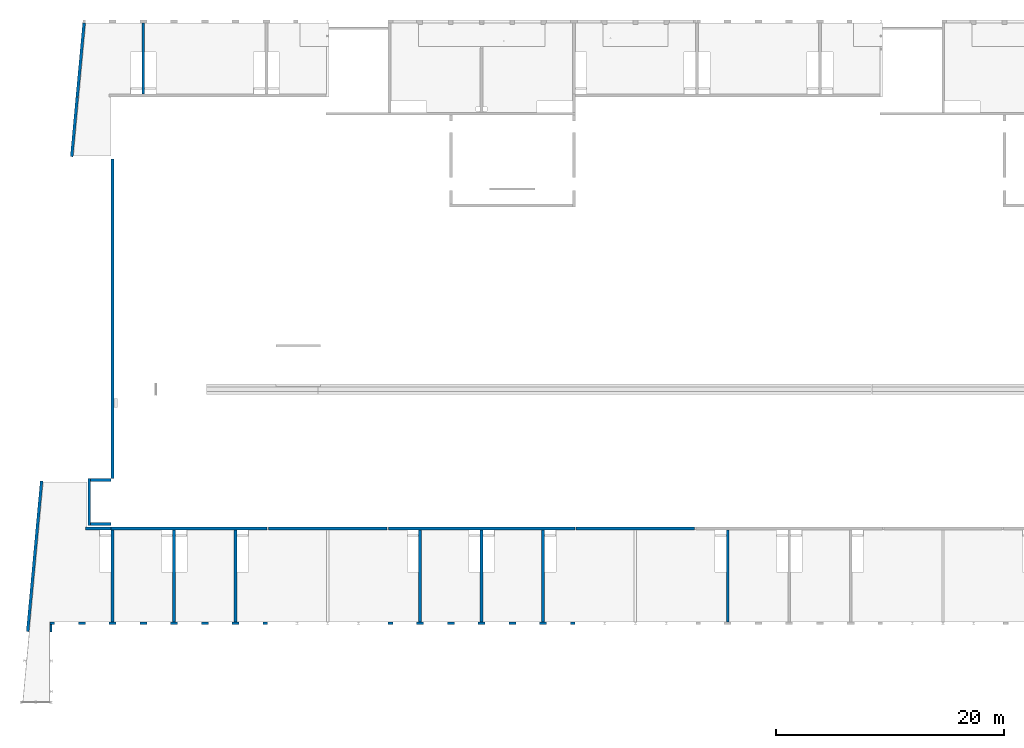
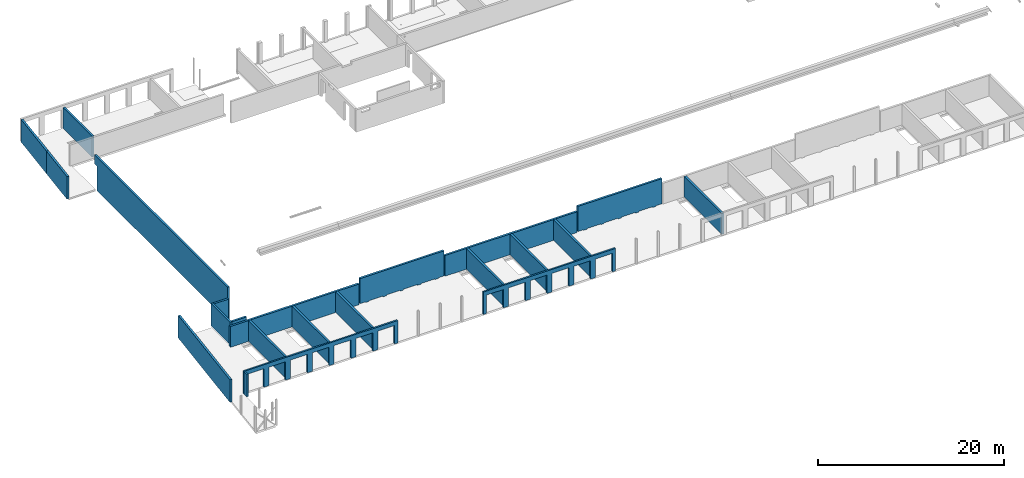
# One storey, part 14 of 22: 23 walls, 27 openings.
"""IFC2X3 building model written with IfcOpenShell, lengths in millimetres."""

from ifc_helpers import new_model, entity, si_unit, converted_unit, derived_unit, direction, frame, frame_2d, origin, origin_2d_with_axis, place, context, subcontext, project, spatial, polyline, rectangle, outline, extrude, clip, bounded_halfspace, faceted_brep, material, layer, layer_set, layer_usage, type_object, element, save


model = new_model("IFC2X3")

# Units and contexts
model_context = context("Model", 3, precision=0.01, world=origin(), true_north=direction((6.12303176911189e-17, 1.0)))
body_context = subcontext(model_context, "Body", "Model", "MODEL_VIEW")
ifc_project = project(units=[si_unit("LENGTHUNIT", "METRE", prefix="MILLI"), si_unit("AREAUNIT", "SQUARE_METRE"), si_unit("VOLUMEUNIT", "CUBIC_METRE"), converted_unit("PLANEANGLEUNIT", "DEGREE", entity("IfcRatioMeasure", 0.0174532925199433), si_unit("PLANEANGLEUNIT", "RADIAN"), dimensions=[0, 0, 0, 0, 0, 0, 0]), si_unit("MASSUNIT", "GRAM", prefix="KILO"), derived_unit("MASSDENSITYUNIT", [(si_unit("MASSUNIT", "GRAM", prefix="KILO"), 1), (si_unit("LENGTHUNIT", "METRE"), -3)]), si_unit("TIMEUNIT", "SECOND"), si_unit("FREQUENCYUNIT", "HERTZ"), si_unit("THERMODYNAMICTEMPERATUREUNIT", "DEGREE_CELSIUS"), derived_unit("THERMALTRANSMITTANCEUNIT", [(si_unit("MASSUNIT", "GRAM", prefix="KILO"), 1), (si_unit("THERMODYNAMICTEMPERATUREUNIT", "KELVIN"), -1), (si_unit("TIMEUNIT", "SECOND"), -3)]), derived_unit("VOLUMETRICFLOWRATEUNIT", [(si_unit("LENGTHUNIT", "METRE"), 3), (si_unit("TIMEUNIT", "SECOND"), -1)]), si_unit("ELECTRICCURRENTUNIT", "AMPERE"), si_unit("ELECTRICVOLTAGEUNIT", "VOLT"), si_unit("POWERUNIT", "WATT"), si_unit("FORCEUNIT", "NEWTON", prefix="KILO"), si_unit("ILLUMINANCEUNIT", "LUX"), si_unit("LUMINOUSFLUXUNIT", "LUMEN"), si_unit("LUMINOUSINTENSITYUNIT", "CANDELA"), derived_unit("USERDEFINED", [(si_unit("MASSUNIT", "GRAM", prefix="KILO"), -1), (si_unit("LENGTHUNIT", "METRE"), -2), (si_unit("TIMEUNIT", "SECOND"), 3), (si_unit("LUMINOUSFLUXUNIT", "LUMEN"), 1)]), derived_unit("LINEARVELOCITYUNIT", [(si_unit("LENGTHUNIT", "METRE"), 1), (si_unit("TIMEUNIT", "SECOND"), -1)]), si_unit("PRESSUREUNIT", "PASCAL"), derived_unit("USERDEFINED", [(si_unit("LENGTHUNIT", "METRE"), -2), (si_unit("MASSUNIT", "GRAM", prefix="KILO"), 1), (si_unit("TIMEUNIT", "SECOND"), -2)])], contexts=[model_context])

# Site, building, storey
site_placement = place(None, origin())
site = spatial("IfcSite", under=ifc_project, at=site_placement, Name="Default", CompositionType="ELEMENT")
building_placement = place(site_placement, origin())
building = spatial("IfcBuilding", under=site, at=building_placement, Name="niet gebruiken", CompositionType="ELEMENT")
storey_placement = place(building_placement, frame((0.0, 0.0, 9630.0)))
storey = spatial("IfcBuildingStorey", under=building, at=storey_placement, Name="03 derde verdieping", CompositionType="ELEMENT", Elevation=9630.00000000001)

# Walls
ifc_material_1 = material(Name="NLRS_f2_beton ihwg")
ifc_layer_1 = layer(ifc_material_1, 250.0)
ifc_layer_set_1 = layer_set([ifc_layer_1], Name="Basic Wall:NLRS_22.21_WA_beton ihwg d=250_gen")
ifc_layer_usage_1 = layer_usage(ifc_layer_set_1, "AXIS2", "NEGATIVE", 125.0)
wall_type_1 = type_object("IfcWallType", Name="Basic Wall:NLRS_22.21_WA_beton ihwg d=250_gen", PredefinedType="STANDARD", material=ifc_layer_set_1)
wall_1_placement = place(storey_placement, frame((8100.0, 8496.0, -90.0), z_axis=(0.0, 0.0, 1.0), x_axis=(0.0, -1.0, 0.0)))
element("IfcWallStandardCase", 1, at=wall_1_placement, inside=storey, type_object=wall_type_1, material=ifc_layer_usage_1, Name="Basic Wall:NLRS_22.21_WA_beton ihwg d=250_gen", ObjectType="Basic Wall:NLRS_22.21_WA_beton ihwg d=250_gen", context=body_context, shape_type="SweptSolid", body=[
    extrude(rectangle(XDim=8075.99999999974, YDim=249.999999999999, at=frame_2d((4037.99999999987, 0.0), x_axis=(-1.0, 0.0))), origin(), (0.0, 0.0, 1.0), 2720.0),
])
ifc_layer_usage_2 = layer_usage(ifc_layer_set_1, "AXIS2", "NEGATIVE", 125.0)
wall_2_placement = place(storey_placement, frame((13500.0, 8496.0, -90.0), z_axis=(0.0, 0.0, 1.0), x_axis=(0.0, -1.0, 0.0)))
element("IfcWallStandardCase", 2, at=wall_2_placement, inside=storey, type_object=wall_type_1, material=ifc_layer_usage_2, Name="Basic Wall:NLRS_22.21_WA_beton ihwg d=250_gen", ObjectType="Basic Wall:NLRS_22.21_WA_beton ihwg d=250_gen", context=body_context, shape_type="SweptSolid", body=[
    extrude(rectangle(XDim=8075.99999999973, YDim=249.999999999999, at=frame_2d((4037.99999999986, 0.0), x_axis=(-1.0, 0.0))), origin(), (0.0, 0.0, 1.0), 2720.0),
])
ifc_layer_usage_3 = layer_usage(ifc_layer_set_1, "AXIS2", "NEGATIVE", 125.0)
wall_3_placement = place(storey_placement, frame((18900.0, 8496.0, -90.0), z_axis=(0.0, 0.0, 1.0), x_axis=(0.0, -1.0, 0.0)))
element("IfcWallStandardCase", 3, at=wall_3_placement, inside=storey, type_object=wall_type_1, material=ifc_layer_usage_3, Name="Basic Wall:NLRS_22.21_WA_beton ihwg d=250_gen", ObjectType="Basic Wall:NLRS_22.21_WA_beton ihwg d=250_gen", context=body_context, shape_type="SweptSolid", body=[
    extrude(rectangle(XDim=8075.99999999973, YDim=249.999999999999, at=frame_2d((4037.99999999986, 0.0), x_axis=(-1.0, 0.0))), origin(), (0.0, 0.0, 1.0), 2720.0),
])
ifc_layer_usage_4 = layer_usage(ifc_layer_set_1, "AXIS2", "NEGATIVE", 125.0)
wall_4_placement = place(storey_placement, frame((35100.0, 8496.0, -90.0), z_axis=(0.0, 0.0, 1.0), x_axis=(0.0, -1.0, 0.0)))
element("IfcWallStandardCase", 4, at=wall_4_placement, inside=storey, type_object=wall_type_1, material=ifc_layer_usage_4, Name="Basic Wall:NLRS_22.21_WA_beton ihwg d=250_gen", ObjectType="Basic Wall:NLRS_22.21_WA_beton ihwg d=250_gen", context=body_context, shape_type="SweptSolid", body=[
    extrude(rectangle(XDim=8075.99999999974, YDim=250.000000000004, at=frame_2d((4037.99999999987, 0.0), x_axis=(-1.0, 0.0))), origin(), (0.0, 0.0, 1.0), 2719.99999999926),
])
ifc_layer_usage_5 = layer_usage(ifc_layer_set_1, "AXIS2", "NEGATIVE", 125.0)
wall_5_placement = place(storey_placement, frame((40500.0, 8496.0, -90.0), z_axis=(0.0, 0.0, 1.0), x_axis=(0.0, -1.0, 0.0)))
element("IfcWallStandardCase", 5, at=wall_5_placement, inside=storey, type_object=wall_type_1, material=ifc_layer_usage_5, Name="Basic Wall:NLRS_22.21_WA_beton ihwg d=250_gen", ObjectType="Basic Wall:NLRS_22.21_WA_beton ihwg d=250_gen", context=body_context, shape_type="SweptSolid", body=[
    extrude(rectangle(XDim=8075.99999999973, YDim=249.999999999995, at=frame_2d((4037.99999999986, 0.0), x_axis=(-1.0, 0.0))), origin(), (0.0, 0.0, 1.0), 2720.0),
])
ifc_layer_usage_6 = layer_usage(ifc_layer_set_1, "AXIS2", "NEGATIVE", 125.0)
wall_6_placement = place(storey_placement, frame((45900.0, 8496.0, -90.0), z_axis=(0.0, 0.0, 1.0), x_axis=(0.0, -1.0, 0.0)))
element("IfcWallStandardCase", 6, at=wall_6_placement, inside=storey, type_object=wall_type_1, material=ifc_layer_usage_6, Name="Basic Wall:NLRS_22.21_WA_beton ihwg d=250_gen", ObjectType="Basic Wall:NLRS_22.21_WA_beton ihwg d=250_gen", context=body_context, shape_type="SweptSolid", body=[
    extrude(rectangle(XDim=8075.99999999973, YDim=249.999999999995, at=frame_2d((4037.99999999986, 0.0), x_axis=(-1.0, 0.0))), origin(), (0.0, 0.0, 1.0), 2720.0),
])
ifc_layer_usage_7 = layer_usage(ifc_layer_set_1, "AXIS2", "NEGATIVE", 125.0)
wall_7_placement = place(storey_placement, frame((62100.0, 8496.0, -90.0), z_axis=(0.0, 0.0, 1.0), x_axis=(0.0, -1.0, 0.0)))
element("IfcWallStandardCase", 7, at=wall_7_placement, inside=storey, type_object=wall_type_1, material=ifc_layer_usage_7, Name="Basic Wall:NLRS_22.21_WA_beton ihwg d=250_gen", ObjectType="Basic Wall:NLRS_22.21_WA_beton ihwg d=250_gen", context=body_context, shape_type="SweptSolid", body=[
    extrude(rectangle(XDim=8075.99999999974, YDim=249.999999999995, at=frame_2d((4037.99999999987, 0.0), x_axis=(-1.0, 0.0))), origin(), (0.0, 0.0, 1.0), 2720.0),
])
ifc_layer_usage_8 = layer_usage(ifc_layer_set_1, "AXIS2", "NEGATIVE", 125.0)
wall_8_placement = place(storey_placement, frame((5735.0, 8621.0, -90.0)))
element("IfcWallStandardCase", 8, at=wall_8_placement, inside=storey, type_object=wall_type_1, material=ifc_layer_usage_8, Name="Basic Wall:NLRS_22.21_WA_beton ihwg d=250_gen", ObjectType="Basic Wall:NLRS_22.21_WA_beton ihwg d=250_gen", context=body_context, shape_type="SweptSolid", body=[
    extrude(rectangle(XDim=2240.00000000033, YDim=249.999999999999, at=frame_2d((1120.00000000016, 0.0), x_axis=(-1.0, 0.0))), origin(), (0.0, 0.0, 1.0), 2720.0),
])
ifc_layer_usage_9 = layer_usage(ifc_layer_set_1, "AXIS2", "NEGATIVE", 125.0)
wall_9_placement = place(storey_placement, frame((10800.0, 46746.0, -90.0), z_axis=(0.0, 0.0, 1.0), x_axis=(0.0, 1.0, 0.0)))
element("IfcWallStandardCase", 9, at=wall_9_placement, inside=storey, type_object=wall_type_1, material=ifc_layer_usage_9, Name="Basic Wall:NLRS_22.21_WA_beton ihwg d=250_gen", ObjectType="Basic Wall:NLRS_22.21_WA_beton ihwg d=250_gen", context=body_context, shape_type="SweptSolid", body=[
    extrude(rectangle(XDim=6239.99999999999, YDim=249.999999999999, at=frame_2d((3120.0, -2.1316282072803e-14), x_axis=(-1.0, 0.0))), origin(), (0.0, 0.0, 1.0), 2720.0),
])
ifc_layer_usage_10 = layer_usage(ifc_layer_set_1, "AXIS2", "NEGATIVE", 125.0)
wall_10_placement = place(storey_placement, frame((7975.0, 8621.0, -90.0)))
element("IfcWallStandardCase", 10, at=wall_10_placement, inside=storey, type_object=wall_type_1, material=ifc_layer_usage_10, Name="Basic Wall:NLRS_22.21_WA_beton ihwg d=250_gen", ObjectType="Basic Wall:NLRS_22.21_WA_beton ihwg d=250_gen", context=body_context, shape_type="Clipping", body=[
    clip(extrude(rectangle(XDim=13704.9999999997, YDim=249.999999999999, at=frame_2d((6852.49999999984, 3.41060513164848e-13), x_axis=(-1.0, 0.0))), origin(), (0.0, 0.0, 1.0), 2719.99999999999), bounded_halfspace(frame((6620.0, -125.0, 2720.0), z_axis=(0.0, 0.0, -1.0), x_axis=(0.0922987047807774, 0.995731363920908, 0.0)), True, frame((6620.0, -125.0, 2720.0), z_axis=(0.0, 0.0, -1.0), x_axis=(0.0922987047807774, 0.995731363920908, 0.0)), polyline([(0.0, 0.0), (-89.5297436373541, -965.85942300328), (-112.604419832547, -1214.79226398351), (-202.134163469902, -2180.65168698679), (-611.017425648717, -6591.74162915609), (-362.08458466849, -6614.81630535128), (902.869164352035, 7031.68203718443), (673.850950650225, 7052.91073928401), (653.936323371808, 7054.75671337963), (0.0, 0.0)]))),
])

# Wall, openings
ifc_layer_usage_11 = layer_usage(ifc_layer_set_1, "AXIS2", "NEGATIVE", 125.0)
wall_11_placement = place(storey_placement, frame((48800.0, 8621.0, -90.0)))
wall_11 = element("IfcWallStandardCase", 11, at=wall_11_placement, inside=storey, type_object=wall_type_1, material=ifc_layer_usage_11, Name="Basic Wall:NLRS_22.21_WA_beton ihwg d=250_gen", ObjectType="Basic Wall:NLRS_22.21_WA_beton ihwg d=250_gen", context=body_context, shape_type="SweptSolid", body=[
    extrude(rectangle(XDim=10399.9999999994, YDim=249.999999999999, at=frame_2d((5199.99999999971, 0.0), x_axis=(-1.0, 0.0))), origin(), (0.0, 0.0, 1.0), 3380.0),
])
opening_1_placement = place(wall_11_placement, origin())
element("IfcOpeningElement", 12, at=opening_1_placement, cuts=wall_11, Name="Basic Wall:NLRS_22.21_WA_beton ihwg d=250_gen", ObjectType="Opening", context=body_context, shape_type="SweptSolid", body=[
    extrude(rectangle(XDim=99.9999999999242, YDim=699.999999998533, at=frame_2d((-4.32009983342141e-12, 5.43565192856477e-13), x_axis=(0.0, 1.0))), frame((10050.0, 125.0, 50.0), z_axis=(0.0, -1.0, 0.0), x_axis=(-1.0, 0.0, 0.0)), (0.0, 0.0, 1.0), 250.0),
])
opening_2_placement = place(wall_11_placement, origin())
element("IfcOpeningElement", 13, at=opening_2_placement, cuts=wall_11, Name="Basic Wall:NLRS_22.21_WA_beton ihwg d=250_gen", ObjectType="Opening", context=body_context, shape_type="SweptSolid", body=[
    extrude(rectangle(XDim=99.999999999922, YDim=1749.99999999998, at=frame_2d((-2.16715534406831e-12, 0.0), x_axis=(1.0, 0.0))), frame((8425.0, 125.0, 50.0), z_axis=(0.0, -1.0, 0.0), x_axis=(0.0, 0.0, 1.0)), (0.0, 0.0, 1.0), 250.0),
])
opening_3_placement = place(wall_11_placement, origin())
element("IfcOpeningElement", 14, at=opening_3_placement, cuts=wall_11, Name="Basic Wall:NLRS_22.21_WA_beton ihwg d=250_gen", ObjectType="Opening", context=body_context, shape_type="SweptSolid", body=[
    extrude(rectangle(XDim=99.9999999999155, YDim=1749.99999999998, at=frame_2d((-1.08357767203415e-12, 0.0), x_axis=(1.0, 0.0))), frame((6275.0, 125.0, 50.0), z_axis=(0.0, -1.0, 0.0), x_axis=(0.0, 0.0, 1.0)), (0.0, 0.0, 1.0), 250.0),
])
opening_4_placement = place(wall_11_placement, origin())
element("IfcOpeningElement", 15, at=opening_4_placement, cuts=wall_11, Name="Basic Wall:NLRS_22.21_WA_beton ihwg d=250_gen", ObjectType="Opening", context=body_context, shape_type="SweptSolid", body=[
    extrude(rectangle(XDim=99.9999999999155, YDim=1750.0, at=frame_2d((-1.08357767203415e-12, 0.0), x_axis=(1.0, 0.0))), frame((4125.0, 125.0, 50.0), z_axis=(0.0, -1.0, 0.0), x_axis=(0.0, 0.0, 1.0)), (0.0, 0.0, 1.0), 250.0),
])
opening_5_placement = place(wall_11_placement, origin())
element("IfcOpeningElement", 16, at=opening_5_placement, cuts=wall_11, Name="Basic Wall:NLRS_22.21_WA_beton ihwg d=250_gen", ObjectType="Opening", context=body_context, shape_type="SweptSolid", body=[
    extrude(rectangle(XDim=99.9999999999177, YDim=1749.99999999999, at=frame_2d((-2.16715534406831e-12, -4.32009983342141e-12), x_axis=(1.0, 0.0))), frame((1975.0, 125.0, 50.0), z_axis=(0.0, -1.0, 0.0), x_axis=(0.0, 0.0, 1.0)), (0.0, 0.0, 1.0), 250.0),
])
opening_6_placement = place(wall_11_placement, origin())
element("IfcOpeningElement", 17, at=opening_6_placement, cuts=wall_11, Name="Basic Wall:NLRS_22.21_WA_beton ihwg d=250_gen", ObjectType="Opening", context=body_context, shape_type="SweptSolid", body=[
    extrude(rectangle(XDim=99.9999999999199, YDim=700.000000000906, at=frame_2d((-5.43565192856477e-13, -4.32009983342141e-12), x_axis=(1.0, 0.0))), frame((350.0, 125.0, 50.0), z_axis=(0.0, -1.0, 0.0), x_axis=(0.0, 0.0, 1.0)), (0.0, 0.0, 1.0), 250.0),
])

ifc_layer_usage_12 = layer_usage(ifc_layer_set_1, "AXIS2", "NEGATIVE", 125.0)
wall_12_placement = place(storey_placement, frame((21800.0, 8621.0, -90.0)))
wall_12 = element("IfcWallStandardCase", 18, at=wall_12_placement, inside=storey, type_object=wall_type_1, material=ifc_layer_usage_12, Name="Basic Wall:NLRS_22.21_WA_beton ihwg d=250_gen", ObjectType="Basic Wall:NLRS_22.21_WA_beton ihwg d=250_gen", context=body_context, shape_type="SweptSolid", body=[
    extrude(rectangle(XDim=10400.0000000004, YDim=249.999999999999, at=frame_2d((5200.00000000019, 0.0), x_axis=(-1.0, 0.0))), origin(), (0.0, 0.0, 1.0), 3380.0),
])
opening_7_placement = place(wall_12_placement, origin())
element("IfcOpeningElement", 19, at=opening_7_placement, cuts=wall_12, Name="Basic Wall:NLRS_22.21_WA_beton ihwg d=250_gen", ObjectType="Opening", context=body_context, shape_type="SweptSolid", body=[
    extrude(rectangle(XDim=100.000000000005, YDim=1750.00000000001, at=frame_2d((-2.1600499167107e-12, -1.08357767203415e-12), x_axis=(0.0, 1.0))), frame((6275.0, 125.0, 50.0), z_axis=(0.0, -1.0, 0.0), x_axis=(1.0, 0.0, 0.0)), (0.0, 0.0, 1.0), 250.0),
])
opening_8_placement = place(wall_12_placement, origin())
element("IfcOpeningElement", 20, at=opening_8_placement, cuts=wall_12, Name="Basic Wall:NLRS_22.21_WA_beton ihwg d=250_gen", ObjectType="Opening", context=body_context, shape_type="SweptSolid", body=[
    extrude(rectangle(XDim=100.000000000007, YDim=1750.0, at=frame_2d((0.0, 1.08357767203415e-12), x_axis=(0.0, 1.0))), frame((8425.0, 125.0, 50.0), z_axis=(0.0, -1.0, 0.0), x_axis=(1.0, 0.0, 0.0)), (0.0, 0.0, 1.0), 250.0),
])
opening_9_placement = place(wall_12_placement, origin())
element("IfcOpeningElement", 21, at=opening_9_placement, cuts=wall_12, Name="Basic Wall:NLRS_22.21_WA_beton ihwg d=250_gen", ObjectType="Opening", context=body_context, shape_type="SweptSolid", body=[
    extrude(rectangle(XDim=100.000000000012, YDim=700.000000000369, at=frame_2d((4.34852154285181e-12, 0.0), x_axis=(0.0, 1.0))), frame((10050.0, 125.0, 50.0), z_axis=(0.0, -1.0, 0.0), x_axis=(1.0, 0.0, 0.0)), (0.0, 0.0, 1.0), 250.0),
])
opening_10_placement = place(wall_12_placement, origin())
element("IfcOpeningElement", 22, at=opening_10_placement, cuts=wall_12, Name="Basic Wall:NLRS_22.21_WA_beton ihwg d=250_gen", ObjectType="Opening", context=body_context, shape_type="SweptSolid", body=[
    extrude(rectangle(XDim=100.000000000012, YDim=700.000000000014, at=origin_2d_with_axis()), frame((350.0, 125.0, 50.0), z_axis=(0.0, -1.0, 0.0), x_axis=(0.0, 0.0, -1.0)), (0.0, 0.0, 1.0), 250.0),
])
opening_11_placement = place(wall_12_placement, origin())
element("IfcOpeningElement", 23, at=opening_11_placement, cuts=wall_12, Name="Basic Wall:NLRS_22.21_WA_beton ihwg d=250_gen", ObjectType="Opening", context=body_context, shape_type="SweptSolid", body=[
    extrude(rectangle(XDim=100.000000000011, YDim=1750.0, at=frame_2d((0.0, -1.08357767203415e-12), x_axis=(0.0, 1.0))), frame((1975.0, 125.0, 50.0), z_axis=(0.0, -1.0, 0.0), x_axis=(1.0, 0.0, 0.0)), (0.0, 0.0, 1.0), 250.0),
])
opening_12_placement = place(wall_12_placement, origin())
element("IfcOpeningElement", 24, at=opening_12_placement, cuts=wall_12, Name="Basic Wall:NLRS_22.21_WA_beton ihwg d=250_gen", ObjectType="Opening", context=body_context, shape_type="SweptSolid", body=[
    extrude(rectangle(XDim=100.000000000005, YDim=1750.00000000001, at=frame_2d((2.1600499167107e-12, -1.08357767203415e-12), x_axis=(0.0, 1.0))), frame((4125.0, 125.0, 50.0), z_axis=(0.0, -1.0, 0.0), x_axis=(1.0, 0.0, 0.0)), (0.0, 0.0, 1.0), 250.0),
])

# Wall
ifc_layer_usage_13 = layer_usage(ifc_layer_set_1, "AXIS2", "NEGATIVE", 125.0)
wall_13_placement = place(storey_placement, frame((32320.0, 8621.0, -90.0)))
element("IfcWallStandardCase", 25, at=wall_13_placement, inside=storey, type_object=wall_type_1, material=ifc_layer_usage_13, Name="Basic Wall:NLRS_22.21_WA_beton ihwg d=250_gen", ObjectType="Basic Wall:NLRS_22.21_WA_beton ihwg d=250_gen", context=body_context, shape_type="Clipping", body=[
    clip(extrude(rectangle(XDim=16359.9999999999, YDim=249.999999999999, at=frame_2d((8179.99999999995, 3.5527136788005e-13), x_axis=(-1.0, 0.0))), origin(), (0.0, 0.0, 1.0), 2720.00000000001), bounded_halfspace(frame((16360.0, -125.0, 2720.0), z_axis=(0.0, 0.0, -1.0), x_axis=(0.0, 1.0, 0.0)), True, frame((16360.0, -125.0, 2720.0), z_axis=(0.0, 0.0, -1.0), x_axis=(0.0, 1.0, 0.0)), polyline([(0.0, 0.0), (0.0, -7085.0), (0.0, -8055.0), (0.0, -8305.0), (0.0, -9275.0), (0.0, -16360.0), (20.0, -16360.0), (250.0, -16360.0), (250.0, 0.0), (20.0, 0.0), (0.0, 0.0)]))),
])

# Wall, openings
ifc_material_2 = material(Name="NLRS_f2_beton prefab")
ifc_layer_2 = layer(ifc_material_2, 250.0)
ifc_layer_set_2 = layer_set([ifc_layer_2], Name="Basic Wall:NLRS_21.21_WA_beton prefab d=250_gen")
ifc_layer_usage_14 = layer_usage(ifc_layer_set_2, "AXIS2", "NEGATIVE", 125.0)
wall_type_2 = type_object("IfcWallType", Name="Basic Wall:NLRS_21.21_WA_beton prefab d=250_gen", PredefinedType="STANDARD", material=ifc_layer_set_2)
wall_14_placement = place(storey_placement, frame((8100.0, 12986.0, -70.0), z_axis=(0.0, 0.0, 1.0), x_axis=(0.0, 1.0, 0.0)))
wall_14 = element("IfcWallStandardCase", 26, at=wall_14_placement, inside=storey, type_object=wall_type_2, material=ifc_layer_usage_14, Name="Basic Wall:NLRS_21.21_WA_beton prefab d=250_gen", ObjectType="Basic Wall:NLRS_21.21_WA_beton prefab d=250_gen", context=body_context, shape_type="SweptSolid", body=[
    extrude(rectangle(XDim=28595.0000000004, YDim=249.999999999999, at=frame_2d((14297.5000000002, -1.77635683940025e-13), x_axis=(-1.0, 0.0))), origin(), (0.0, 0.0, 1.0), 4365.00000000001),
])
opening_13_placement = place(wall_14_placement, frame((0.0, 125.0, 4350.0)))
element("IfcOpeningElement", 27, at=opening_13_placement, cuts=wall_14, Name="Basic Wall:NLRS_21.21_WA_beton prefab d=250_gen", ObjectType="Opening", context=body_context, shape_type="Brep", body=[
    faceted_brep([(0.0, -250.0, 15.0), (0.0, 0.0, 15.0), (0.0, -250.0, 0.0), (28595.0, -250.0, 15.0), (28595.0, -250.0, 0.0), (28595.0, 0.0, 15.0)], [[[0, 1, 2]], [[3, 4, 5]], [[2, 4, 3, 0]], [[1, 5, 4, 2]], [[0, 3, 5, 1]]]),
])
opening_14_placement = place(wall_14_placement, origin())
element("IfcOpeningElement", 28, at=opening_14_placement, cuts=wall_14, Name="Basic Wall:NLRS_21.21_WA_beton prefab d=250_gen", ObjectType="Opening", context=body_context, shape_type="SweptSolid", body=[
    extrude(rectangle(XDim=3184.99999999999, YDim=520.00000000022, at=frame_2d((4.32009983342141e-12, 5.6843418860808e-13), x_axis=(0.0, 1.0))), frame((28335.0, 125.0, 1592.5), z_axis=(0.0, -1.0, 0.0), x_axis=(1.0, 0.0, 0.0)), (0.0, 0.0, 1.0), 250.0),
])

# Walls
ifc_layer_usage_15 = layer_usage(ifc_layer_set_2, "AXIS2", "NEGATIVE", 125.0)
wall_15_placement = place(storey_placement, frame((6175.0, 12861.0, -70.0)))
element("IfcWallStandardCase", 29, at=wall_15_placement, inside=storey, type_object=wall_type_2, material=ifc_layer_usage_15, Name="Basic Wall:NLRS_21.21_WA_beton prefab d=250_gen", ObjectType="Basic Wall:NLRS_21.21_WA_beton prefab d=250_gen", context=body_context, shape_type="SweptSolid", body=[
    extrude(rectangle(XDim=1800.0, YDim=249.999999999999, at=frame_2d((900.0, 0.0), x_axis=(-1.0, 0.0))), origin(), (0.0, 0.0, 1.0), 2950.0),
])
ifc_layer_usage_16 = layer_usage(ifc_layer_set_2, "AXIS2", "NEGATIVE", 125.0)
wall_16_placement = place(storey_placement, frame((7975.0, 9011.0, -70.0), z_axis=(0.0, 0.0, 1.0), x_axis=(-1.0, 0.0, 0.0)))
element("IfcWallStandardCase", 30, at=wall_16_placement, inside=storey, type_object=wall_type_2, material=ifc_layer_usage_16, Name="Basic Wall:NLRS_21.21_WA_beton prefab d=250_gen", ObjectType="Basic Wall:NLRS_21.21_WA_beton prefab d=250_gen", context=body_context, shape_type="SweptSolid", body=[
    extrude(rectangle(XDim=1800.0, YDim=249.999999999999, at=frame_2d((900.0, 0.0), x_axis=(-1.0, 0.0))), origin(), (0.0, 0.0, 1.0), 2950.0),
])
ifc_layer_usage_17 = layer_usage(ifc_layer_set_2, "AXIS2", "NEGATIVE", 125.0)
wall_17_placement = place(storey_placement, frame((1875.75026155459, 12794.4626619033, -70.0), z_axis=(0.0, 0.0, 1.0), x_axis=(-0.0922987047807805, -0.995731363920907, 0.0)))
element("IfcWallStandardCase", 31, at=wall_17_placement, inside=storey, type_object=wall_type_2, material=ifc_layer_usage_17, Name="Basic Wall:NLRS_21.21_WA_beton prefab d=250_gen", ObjectType="Basic Wall:NLRS_21.21_WA_beton prefab d=250_gen", context=body_context, shape_type="SweptSolid", body=[
    extrude(rectangle(XDim=13289.654020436, YDim=250.0, at=frame_2d((6644.827010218, 1.77635683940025e-13), x_axis=(-1.0, 0.0))), origin(), (0.0, 0.0, 1.0), 2950.00000000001),
])
ifc_layer_usage_18 = layer_usage(ifc_layer_set_2, "AXIS2", "NEGATIVE", 125.0)
wall_18_placement = place(storey_placement, frame((4999.76909310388, 46496.4629439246, -70.0), z_axis=(0.0, 0.0, 1.0), x_axis=(-0.0922993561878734, -0.995731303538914, 0.0)))
element("IfcWallStandardCase", 32, at=wall_18_placement, inside=storey, type_object=wall_type_2, material=ifc_layer_usage_18, Name="Basic Wall:NLRS_21.21_WA_beton prefab d=250_gen", ObjectType="Basic Wall:NLRS_21.21_WA_beton prefab d=250_gen", context=body_context, shape_type="SweptSolid", body=[
    extrude(rectangle(XDim=5266.40621396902, YDim=250.0, at=frame_2d((2633.20310698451, -1.56319401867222e-13), x_axis=(-1.0, 0.0))), origin(), (0.0, 0.0, 1.0), 2950.00000000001),
])
ifc_layer_usage_19 = layer_usage(ifc_layer_set_2, "AXIS2", "NEGATIVE", 125.0)
wall_19_placement = place(storey_placement, frame((5604.2403732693, 53017.5374195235, -70.0), z_axis=(0.0, 0.0, 1.0), x_axis=(-0.0922993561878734, -0.995731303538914, 0.0)))
element("IfcWallStandardCase", 33, at=wall_19_placement, inside=storey, type_object=wall_type_2, material=ifc_layer_usage_19, Name="Basic Wall:NLRS_21.21_WA_beton prefab d=250_gen", ObjectType="Basic Wall:NLRS_21.21_WA_beton prefab d=250_gen", context=body_context, shape_type="SweptSolid", body=[
    extrude(outline(polyline([(6549.03029805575, -125.0), (6549.03029805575, 125.0), (0.0, 125.0), (1.72662432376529, 106.37306737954), (23.1737607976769, -125.0), (6549.03029805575, -125.0)])), origin(), (0.0, 0.0, 1.0), 2950.00000000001),
])

# Wall, openings
ifc_layer_3 = layer(ifc_material_2, 200.0)
ifc_layer_set_3 = layer_set([ifc_layer_3], Name="Basic Wall:NLRS_21.21_WA_beton prefab d=200_gen")
ifc_layer_usage_20 = layer_usage(ifc_layer_set_3, "AXIS2", "NEGATIVE", 100.0)
wall_type_3 = type_object("IfcWallType", Name="Basic Wall:NLRS_21.21_WA_beton prefab d=200_gen", PredefinedType="STANDARD", material=ifc_layer_set_3)
wall_20_placement = place(storey_placement, frame((2600.0, 300.0, -70.0)))
wall_20 = element("IfcWallStandardCase", 34, at=wall_20_placement, inside=storey, type_object=wall_type_3, material=ifc_layer_usage_20, Name="Basic Wall:NLRS_21.21_WA_beton prefab d=200_gen", ObjectType="Basic Wall:NLRS_21.21_WA_beton prefab d=200_gen", context=body_context, shape_type="SweptSolid", body=[
    extrude(rectangle(XDim=19100.0, YDim=200.0, at=frame_2d((9550.0, -2.1316282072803e-14), x_axis=(-1.0, 0.0))), origin(), (0.0, 0.0, 1.0), 2950.00000000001),
])
opening_15_placement = place(wall_20_placement, origin())
element("IfcOpeningElement", 35, at=opening_15_placement, cuts=wall_20, Name="Basic Wall:NLRS_21.21_WA_beton prefab d=200_gen", ObjectType="Opening", context=body_context, shape_type="SweptSolid", body=[
    extrude(rectangle(XDim=2440.0, YDim=2080.0, at=frame_2d((-2.27373675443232e-13, -1.70530256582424e-12), x_axis=(0.0, 1.0))), frame((1450.0, -1424.0, 1200.0), z_axis=(0.0, 1.0, 0.0), x_axis=(-1.0, 0.0, 0.0)), (0.0, 0.0, 1.0), 3048.0),
])
opening_16_placement = place(wall_20_placement, origin())
element("IfcOpeningElement", 36, at=opening_16_placement, cuts=wall_20, Name="Basic Wall:NLRS_21.21_WA_beton prefab d=200_gen", ObjectType="Opening", context=body_context, shape_type="SweptSolid", body=[
    extrude(rectangle(XDim=2440.0, YDim=2080.0, at=frame_2d((-1.13686837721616e-12, -1.70530256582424e-12), x_axis=(0.0, 1.0))), frame((17650.0, -1424.0, 1200.0), z_axis=(0.0, 1.0, 0.0), x_axis=(-1.0, 0.0, 0.0)), (0.0, 0.0, 1.0), 3048.0),
])
opening_17_placement = place(wall_20_placement, origin())
element("IfcOpeningElement", 37, at=opening_17_placement, cuts=wall_20, Name="Basic Wall:NLRS_21.21_WA_beton prefab d=200_gen", ObjectType="Opening", context=body_context, shape_type="SweptSolid", body=[
    extrude(rectangle(XDim=2440.0, YDim=2080.0, at=frame_2d((-1.13686837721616e-12, -1.70530256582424e-12), x_axis=(0.0, 1.0))), frame((14950.0, -1424.0, 1200.0), z_axis=(0.0, 1.0, 0.0), x_axis=(-1.0, 0.0, 0.0)), (0.0, 0.0, 1.0), 3048.0),
])
opening_18_placement = place(wall_20_placement, origin())
element("IfcOpeningElement", 38, at=opening_18_placement, cuts=wall_20, Name="Basic Wall:NLRS_21.21_WA_beton prefab d=200_gen", ObjectType="Opening", context=body_context, shape_type="SweptSolid", body=[
    extrude(rectangle(XDim=2440.0, YDim=2080.0, at=frame_2d((0.0, -1.70530256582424e-12), x_axis=(0.0, 1.0))), frame((12250.0, -1424.0, 1200.0), z_axis=(0.0, 1.0, 0.0), x_axis=(-1.0, 0.0, 0.0)), (0.0, 0.0, 1.0), 3048.0),
])
opening_19_placement = place(wall_20_placement, origin())
element("IfcOpeningElement", 39, at=opening_19_placement, cuts=wall_20, Name="Basic Wall:NLRS_21.21_WA_beton prefab d=200_gen", ObjectType="Opening", context=body_context, shape_type="SweptSolid", body=[
    extrude(rectangle(XDim=2440.0, YDim=2080.0, at=frame_2d((1.13686837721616e-12, -1.70530256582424e-12), x_axis=(0.0, 1.0))), frame((9550.0, -1424.0, 1200.0), z_axis=(0.0, 1.0, 0.0), x_axis=(-1.0, 0.0, 0.0)), (0.0, 0.0, 1.0), 3048.0),
])
opening_20_placement = place(wall_20_placement, origin())
element("IfcOpeningElement", 40, at=opening_20_placement, cuts=wall_20, Name="Basic Wall:NLRS_21.21_WA_beton prefab d=200_gen", ObjectType="Opening", context=body_context, shape_type="SweptSolid", body=[
    extrude(rectangle(XDim=2440.0, YDim=2080.0, at=frame_2d((5.6843418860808e-13, -1.70530256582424e-12), x_axis=(0.0, 1.0))), frame((6850.0, -1424.0, 1200.0), z_axis=(0.0, 1.0, 0.0), x_axis=(-1.0, 0.0, 0.0)), (0.0, 0.0, 1.0), 3048.0),
])
opening_21_placement = place(wall_20_placement, origin())
element("IfcOpeningElement", 41, at=opening_21_placement, cuts=wall_20, Name="Basic Wall:NLRS_21.21_WA_beton prefab d=200_gen", ObjectType="Opening", context=body_context, shape_type="SweptSolid", body=[
    extrude(rectangle(XDim=2440.0, YDim=2080.0, at=frame_2d((5.6843418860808e-13, -5.6843418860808e-13), x_axis=(0.0, 1.0))), frame((4150.0, -1424.0, 1200.0), z_axis=(0.0, 1.0, 0.0), x_axis=(-1.0, 0.0, 0.0)), (0.0, 0.0, 1.0), 3048.0),
])

ifc_layer_usage_21 = layer_usage(ifc_layer_set_3, "AXIS2", "NEGATIVE", 100.0)
wall_21_placement = place(storey_placement, frame((32300.0, 300.0, -70.0)))
wall_21 = element("IfcWallStandardCase", 42, at=wall_21_placement, inside=storey, type_object=wall_type_3, material=ifc_layer_usage_21, Name="Basic Wall:NLRS_21.21_WA_beton prefab d=200_gen", ObjectType="Basic Wall:NLRS_21.21_WA_beton prefab d=200_gen", context=body_context, shape_type="SweptSolid", body=[
    extrude(rectangle(XDim=16400.0, YDim=200.0, at=frame_2d((8200.0, -1.4210854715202e-14), x_axis=(-1.0, 0.0))), origin(), (0.0, 0.0, 1.0), 2950.00000000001),
])
opening_22_placement = place(wall_21_placement, origin())
element("IfcOpeningElement", 43, at=opening_22_placement, cuts=wall_21, Name="Basic Wall:NLRS_21.21_WA_beton prefab d=200_gen", ObjectType="Opening", context=body_context, shape_type="SweptSolid", body=[
    extrude(rectangle(XDim=2440.0, YDim=2080.0, at=frame_2d((0.0, 5.6843418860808e-13), x_axis=(0.0, 1.0))), frame((14950.0, -1424.0, 1200.0), z_axis=(0.0, 1.0, 0.0), x_axis=(-1.0, 0.0, 0.0)), (0.0, 0.0, 1.0), 3048.0),
])
opening_23_placement = place(wall_21_placement, origin())
element("IfcOpeningElement", 44, at=opening_23_placement, cuts=wall_21, Name="Basic Wall:NLRS_21.21_WA_beton prefab d=200_gen", ObjectType="Opening", context=body_context, shape_type="SweptSolid", body=[
    extrude(rectangle(XDim=2440.0, YDim=2080.0, at=frame_2d((0.0, 5.6843418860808e-13), x_axis=(0.0, 1.0))), frame((12250.0, -1424.0, 1200.0), z_axis=(0.0, 1.0, 0.0), x_axis=(-1.0, 0.0, 0.0)), (0.0, 0.0, 1.0), 3048.0),
])
opening_24_placement = place(wall_21_placement, origin())
element("IfcOpeningElement", 45, at=opening_24_placement, cuts=wall_21, Name="Basic Wall:NLRS_21.21_WA_beton prefab d=200_gen", ObjectType="Opening", context=body_context, shape_type="SweptSolid", body=[
    extrude(rectangle(XDim=2440.0, YDim=2080.0, at=frame_2d((0.0, 5.6843418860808e-13), x_axis=(0.0, 1.0))), frame((9550.0, -1424.0, 1200.0), z_axis=(0.0, 1.0, 0.0), x_axis=(-1.0, 0.0, 0.0)), (0.0, 0.0, 1.0), 3048.0),
])
opening_25_placement = place(wall_21_placement, origin())
element("IfcOpeningElement", 46, at=opening_25_placement, cuts=wall_21, Name="Basic Wall:NLRS_21.21_WA_beton prefab d=200_gen", ObjectType="Opening", context=body_context, shape_type="SweptSolid", body=[
    extrude(rectangle(XDim=2440.0, YDim=2079.99999999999, at=frame_2d((-2.1600499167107e-12, 5.6843418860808e-13), x_axis=(0.0, 1.0))), frame((6850.0, -1424.0, 1200.0), z_axis=(0.0, 1.0, 0.0), x_axis=(-1.0, 0.0, 0.0)), (0.0, 0.0, 1.0), 3048.0),
])
opening_26_placement = place(wall_21_placement, origin())
element("IfcOpeningElement", 47, at=opening_26_placement, cuts=wall_21, Name="Basic Wall:NLRS_21.21_WA_beton prefab d=200_gen", ObjectType="Opening", context=body_context, shape_type="SweptSolid", body=[
    extrude(rectangle(XDim=2440.0, YDim=2080.0, at=frame_2d((-2.1600499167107e-12, 5.6843418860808e-13), x_axis=(0.0, 1.0))), frame((4150.0, -1424.0, 1200.0), z_axis=(0.0, 1.0, 0.0), x_axis=(-1.0, 0.0, 0.0)), (0.0, 0.0, 1.0), 3048.0),
])
opening_27_placement = place(wall_21_placement, origin())
element("IfcOpeningElement", 48, at=opening_27_placement, cuts=wall_21, Name="Basic Wall:NLRS_21.21_WA_beton prefab d=200_gen", ObjectType="Opening", context=body_context, shape_type="SweptSolid", body=[
    extrude(rectangle(XDim=2440.0, YDim=2080.0, at=frame_2d((2.1600499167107e-12, 5.6843418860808e-13), x_axis=(0.0, 1.0))), frame((1450.0, -1424.0, 1200.0), z_axis=(0.0, 1.0, 0.0), x_axis=(-1.0, 0.0, 0.0)), (0.0, 0.0, 1.0), 3048.0),
])

# Walls
ifc_layer_usage_22 = layer_usage(ifc_layer_set_3, "AXIS2", "NEGATIVE", 100.0)
wall_22_placement = place(storey_placement, frame((2700.0, 200.0, -70.0), z_axis=(0.0, 0.0, 1.0), x_axis=(0.0, -1.0, 0.0)))
element("IfcWallStandardCase", 49, at=wall_22_placement, inside=storey, type_object=wall_type_3, material=ifc_layer_usage_22, Name="Basic Wall:NLRS_21.21_WA_beton prefab d=200_gen", ObjectType="Basic Wall:NLRS_21.21_WA_beton prefab d=200_gen", context=body_context, shape_type="SweptSolid", body=[
    extrude(rectangle(XDim=650.000000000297, YDim=200.0, at=frame_2d((325.000000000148, 0.0), x_axis=(-1.0, 0.0))), origin(), (0.0, 0.0, 1.0), 2949.99999999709),
])
ifc_layer_4 = layer(ifc_material_2, 250.0)
ifc_layer_set_4 = layer_set([ifc_layer_4], Name="Basic Wall:NLRS_22.21_WA_beton prefab d=250_gen")
ifc_layer_usage_23 = layer_usage(ifc_layer_set_4, "AXIS2", "NEGATIVE", 125.0)
wall_type_4 = type_object("IfcWallType", Name="Basic Wall:NLRS_22.21_WA_beton prefab d=250_gen", PredefinedType="STANDARD", material=ifc_layer_set_4)
wall_23_placement = place(storey_placement, frame((6050.0, 8886.0, -70.0), z_axis=(0.0, 0.0, 1.0), x_axis=(0.0, 1.0, 0.0)))
element("IfcWallStandardCase", 50, at=wall_23_placement, inside=storey, type_object=wall_type_4, material=ifc_layer_usage_23, Name="Basic Wall:NLRS_22.21_WA_beton prefab d=250_gen", ObjectType="Basic Wall:NLRS_22.21_WA_beton prefab d=250_gen", context=body_context, shape_type="SweptSolid", body=[
    extrude(rectangle(XDim=4100.0, YDim=249.999999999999, at=frame_2d((2050.0, 0.0), x_axis=(-1.0, 0.0))), origin(), (0.0, 0.0, 1.0), 2950.00000000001),
])

save(model, "model.ifc")
